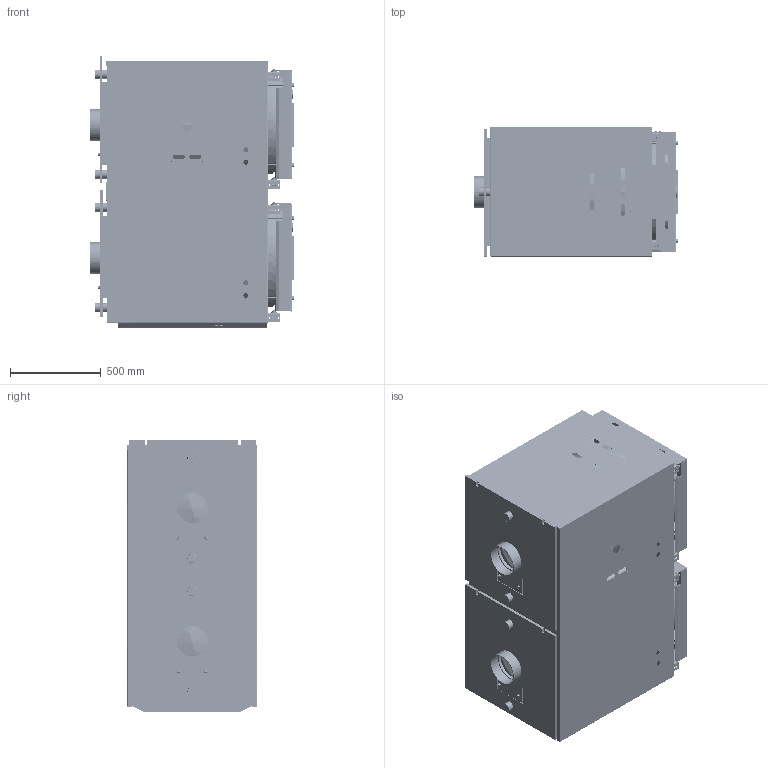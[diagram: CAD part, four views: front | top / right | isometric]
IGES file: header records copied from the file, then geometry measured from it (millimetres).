
Start section: START RECORD GO HERE.
Global section: file name: 20067747_aperta.igs; native system: DASSAULT SYSTEMES CATIA V5 R20 - www.3ds.com; preprocessor: CATIA Version 5 Release 20 SP 6 ; author: Riello S.p.A.; organization: ASE; date: 20130925.172021; units: millimetre
Bounding box: 1125.55 x 713.6 x 1494.6 mm (x, y, z)
Surface area: 36459300.9 mm2 (no closed solid volume)
Topology: 0 solids, 0 shells, 7849 faces, 38212 edges, 38106 vertices
Faces by surface type: plane 3685, revolution 3622, bspline 542
